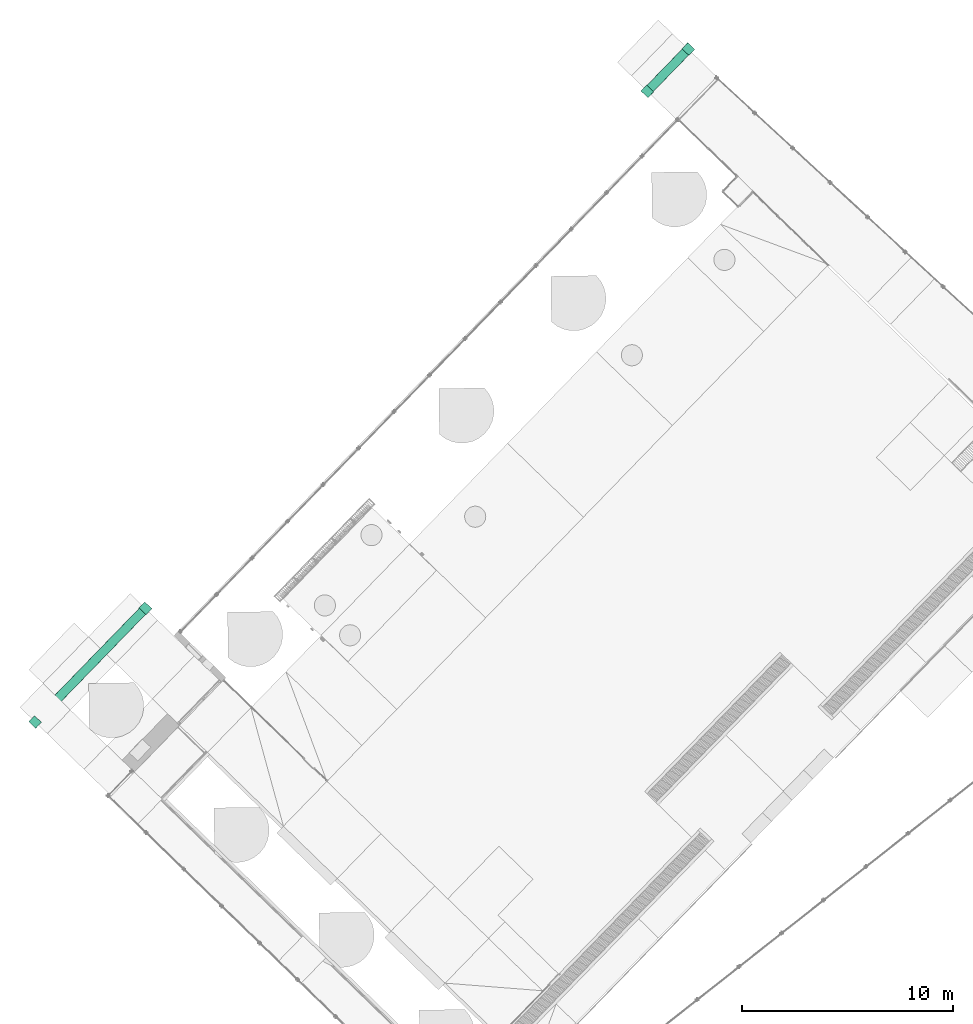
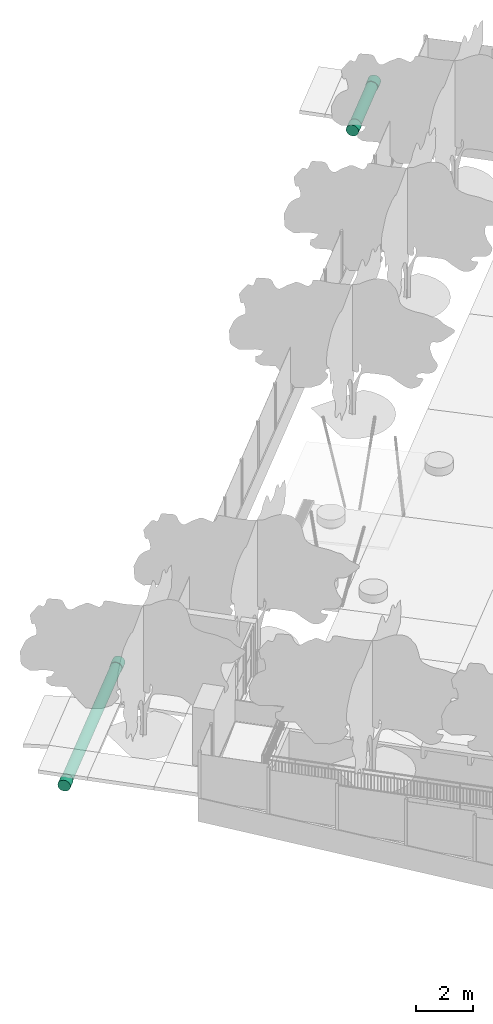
# One storey, part 31 of 37: 4 flow fittings, 2 flow segments.
"""IFC2X3 building model written with IfcOpenShell, lengths in centimetres."""

import ifcopenshell
import ifcopenshell.guid

model = None  # the IFC model being written
_history = None  # IfcOwnerHistory: only IFC2X3 demands one
_inside = {}  # id of a spatial element -> (the spatial element, [elements in it])
_under = {}  # id of a project, library or spatial element -> (it, [spatial elements below it])
_declared = {}  # id of a project -> (the project, [libraries it declares])
_typed = {}  # id of a type object -> (the type object, [elements of that type])
_made_of = {}  # id of a material, layer set ... -> (it, [elements and type objects made of it])


def new_model(schema):
    """Start an empty IFC model of exactly this schema.

    Asked for "IFC4X3", IfcOpenShell would pick the latest addendum, in which some entities
    have other attributes; the version numbers below select the first issue.
    IFC2X3 requires an IfcOwnerHistory on every rooted entity: one is made here for all.
    """
    global model, _history
    if schema == "IFC4X3":
        model = ifcopenshell.file(schema_version=(4, 3, 0, 0))
    else:
        model = ifcopenshell.file(schema=schema)
    _inside.clear()
    _under.clear()
    _declared.clear()
    _typed.clear()
    _made_of.clear()
    _history = None
    if model.schema == "IFC2X3":
        org = make("IfcOrganization", Name="unknown")
        user = make(
            "IfcPersonAndOrganization",
            ThePerson=make("IfcPerson", FamilyName="unknown"),
            TheOrganization=org,
        )
        app = make(
            "IfcApplication",
            ApplicationDeveloper=org,
            Version="unknown",
            ApplicationFullName="unknown",
            ApplicationIdentifier="unknown",
        )
        _history = make(
            "IfcOwnerHistory",
            OwningUser=user,
            OwningApplication=app,
            ChangeAction="ADDED",
            CreationDate=0,
        )
    return model


def make(cls, **values):
    """One entity of the class cls with the attributes given. An attribute that is None is left unset."""
    return model.create_entity(
        cls, **{name: value for name, value in values.items() if value is not None}
    )


def entity(cls, *values):
    """Any entity or typed value of the class cls, its attributes in the order of the schema. None: left unset."""
    e = model.create_entity(cls)
    for i, value in enumerate(values):
        if value is not None:
            e[i] = value
    return e


def rooted(cls, **values):
    """An entity with a GlobalId (a new one), such as an element, a storey or a relation."""
    return make(cls, GlobalId=ifcopenshell.guid.new(), OwnerHistory=_history, **values)


def si_unit(unit_type, name, prefix=None):
    """IfcSIUnit, for example si_unit("LENGTHUNIT", "METRE", prefix="MILLI")."""
    return make("IfcSIUnit", UnitType=unit_type, Prefix=prefix, Name=name)


def converted_unit(unit_type, name, factor, base, dimensions=None, offset=None):
    """IfcConversionBasedUnit, such as the inch: factor (a typed value) times the base unit."""
    return make(
        "IfcConversionBasedUnit"
        if offset is None
        else "IfcConversionBasedUnitWithOffset",
        ConversionOffset=offset,
        Dimensions=None
        if dimensions is None
        else entity("IfcDimensionalExponents", *dimensions),
        UnitType=unit_type,
        Name=name,
        ConversionFactor=make(
            "IfcMeasureWithUnit", ValueComponent=factor, UnitComponent=base
        ),
    )


def derived_unit(unit_type, elements):
    """IfcDerivedUnit: a product of units, each with its exponent."""
    return make(
        "IfcDerivedUnit",
        Elements=[
            make("IfcDerivedUnitElement", Unit=unit, Exponent=power)
            for unit, power in elements
        ],
        UnitType=unit_type,
    )


def assignment(units):
    """IfcUnitAssignment: the units of a project."""
    return None if units is None else make("IfcUnitAssignment", Units=units)


def point(xyz):
    """IfcCartesianPoint."""
    return None if xyz is None else make("IfcCartesianPoint", Coordinates=xyz)


def direction(xyz):
    """IfcDirection."""
    return None if xyz is None else make("IfcDirection", DirectionRatios=xyz)


def frame(location, z_axis=None, x_axis=None):
    """IfcAxis2Placement3D, a coordinate frame: its origin and axes. An axis left out is left unset."""
    return make(
        "IfcAxis2Placement3D",
        Location=point(location),
        Axis=direction(z_axis),
        RefDirection=direction(x_axis),
    )


def frame_2d(location, x_axis=None):
    """IfcAxis2Placement2D, a coordinate frame in the plane: its origin and x axis."""
    return make(
        "IfcAxis2Placement2D", Location=point(location), RefDirection=direction(x_axis)
    )


def origin():
    """The frame at (0, 0, 0) with its axes left unset."""
    return frame((0.0, 0.0, 0.0))


def place(relative_to, where):
    """IfcLocalPlacement: puts the frame where relative to a parent placement (None: the world)."""
    return make(
        "IfcLocalPlacement", PlacementRelTo=relative_to, RelativePlacement=where
    )


def context(
    kind, dimensions, precision=None, world=None, true_north=None, identifier=None
):
    """IfcGeometricRepresentationContext, for example the 3D "Model" context."""
    return make(
        "IfcGeometricRepresentationContext",
        ContextIdentifier=identifier,
        ContextType=kind,
        CoordinateSpaceDimension=dimensions,
        Precision=precision,
        WorldCoordinateSystem=world,
        TrueNorth=true_north,
    )


def subcontext(parent, identifier, kind, view, scale=None):
    """IfcGeometricRepresentationSubContext, for example "Body" below "Model"."""
    return make(
        "IfcGeometricRepresentationSubContext",
        ContextIdentifier=identifier,
        ContextType=kind,
        ParentContext=parent,
        TargetScale=scale,
        TargetView=view,
    )


def project(units=None, contexts=None):
    """IfcProject with its units and contexts."""
    return rooted(
        "IfcProject",
        Name="project",
        RepresentationContexts=contexts,
        UnitsInContext=assignment(units),
    )


def spatial(cls, under=None, at=None, **own):
    """A site, building, storey or space (cls), placed at a placement, below another one or the project."""
    s = rooted(cls, ObjectPlacement=at, **own)
    if under is not None:
        _under.setdefault(under.id(), (under, []))[1].append(s)
    return s


def profile(cls, at=None, kind="AREA", **sizes):
    """A parametric profile (cls). Its sizes go by their IFC names, for example OverallWidth=200.0."""
    return make(cls, ProfileType=kind, Position=at, **sizes)


def circle(**sizes):
    """IfcCircleProfileDef."""
    return profile("IfcCircleProfileDef", **sizes)


def extrude(swept, where, along, depth):
    """IfcExtrudedAreaSolid: the profile swept, set in the frame where, extruded along a direction by depth."""
    return make(
        "IfcExtrudedAreaSolid",
        SweptArea=swept,
        Position=where,
        ExtrudedDirection=direction(along),
        Depth=depth,
    )


def shape(context_of_items, identifier, shape_type, items):
    """IfcShapeRepresentation: the items that make up one representation, for example the "Body"."""
    return make(
        "IfcShapeRepresentation",
        ContextOfItems=context_of_items,
        RepresentationIdentifier=identifier,
        RepresentationType=shape_type,
        Items=items,
    )


def source(mapping_origin, context_of_items, identifier, shape_type, items):
    """IfcRepresentationMap: a shape defined once, which mapped items show again and again."""
    return make(
        "IfcRepresentationMap",
        MappingOrigin=mapping_origin,
        MappedRepresentation=shape(context_of_items, identifier, shape_type, items),
    )


def transform(
    local_origin,
    x_axis=None,
    y_axis=None,
    z_axis=None,
    scale=None,
    scale2=None,
    scale3=None,
    uniform=True,
):
    """IfcCartesianTransformationOperator3D, or its non-uniform kind. x_axis, y_axis, z_axis: its Axis1, 2, 3."""
    if uniform:
        return make(
            "IfcCartesianTransformationOperator3D",
            Axis1=direction(x_axis),
            Axis2=direction(y_axis),
            LocalOrigin=point(local_origin),
            Scale=scale,
            Axis3=direction(z_axis),
        )
    return make(
        "IfcCartesianTransformationOperator3DnonUniform",
        Axis1=direction(x_axis),
        Axis2=direction(y_axis),
        LocalOrigin=point(local_origin),
        Scale=scale,
        Axis3=direction(z_axis),
        Scale2=scale2,
        Scale3=scale3,
    )


def mapped(mapping_source, mapping_target):
    """IfcMappedItem: shows the shape of a source again, moved by a transform."""
    return make(
        "IfcMappedItem", MappingSource=mapping_source, MappingTarget=mapping_target
    )


def material(Name=None, Category=None):
    """IfcMaterial."""
    return make("IfcMaterial", Name=Name, Category=Category)


def made_of(thing, what):
    """Note that an element or type object is made of a material, layer set ...; save() writes the relation."""
    if what is not None:
        _made_of.setdefault(what.id(), (what, []))[1].append(thing)
    return thing


def type_object(cls, material=None, **own):
    """A type object (cls), such as IfcWallType, which elements share."""
    return made_of(rooted(cls, **own), material)


def type_shapes(of_type, sources):
    """Give a type object the sources (RepresentationMaps) that its elements show as mapped items."""
    of_type.RepresentationMaps = sources


def element(
    cls,
    number,
    at=None,
    inside=None,
    cuts=None,
    type_object=None,
    material=None,
    context=None,
    identifier="Body",
    shape_type=None,
    held_by="IfcProductDefinitionShape",
    body=None,
    shapes=None,
    **own,
):
    """One element of the class cls, such as IfcWall. Its Tag is "e" and its number.

    at: its placement. inside: the storey or other place that contains it. cuts: it is an
    opening in that element (IfcRelVoidsElement). A single representation is given by context,
    identifier, shape_type and body (its items); several are given by shapes. held_by: the class
    of the entity that holds the representations. save() writes the other relations.
    """
    e = rooted(cls, Tag="e%d" % number, ObjectPlacement=at, **own)
    if body is not None:
        shapes = [shape(context, identifier, shape_type, body)]
    if shapes is not None:
        e.Representation = make(held_by, Representations=shapes)
    if inside is not None:
        _inside.setdefault(inside.id(), (inside, []))[1].append(e)
    if cuts is not None:
        rooted(
            "IfcRelVoidsElement", RelatingBuildingElement=cuts, RelatedOpeningElement=e
        )
    if type_object is not None:
        _typed.setdefault(type_object.id(), (type_object, []))[1].append(e)
    return made_of(e, material)


def aggregate(whole, parts):
    """IfcRelAggregates: a whole, such as a stair, and the parts it consists of."""
    return rooted("IfcRelAggregates", RelatingObject=whole, RelatedObjects=parts)


def save(model, path):
    """Write the relations noted so far, then the file.

    IfcRelAggregates (storeys below a building ...), IfcRelContainedInSpatialStructure (elements
    in a storey), IfcRelDefinesByType, IfcRelAssociatesMaterial and IfcRelDeclares: one each for
    every whole, place, type object, material and project.
    """
    for whole, parts in _under.values():
        aggregate(whole, parts)
    for where, things in _inside.values():
        rooted(
            "IfcRelContainedInSpatialStructure",
            RelatedElements=things,
            RelatingStructure=where,
        )
    for kind, things in _typed.values():
        rooted("IfcRelDefinesByType", RelatedObjects=things, RelatingType=kind)
    for what, things in _made_of.values():
        rooted("IfcRelAssociatesMaterial", RelatedObjects=things, RelatingMaterial=what)
    for by, libraries in _declared.values():
        rooted("IfcRelDeclares", RelatingContext=by, RelatedDefinitions=libraries)
    model.write(path)


model = new_model("IFC2X3")

# Units and contexts
model_context = context("Model", 3, precision=0.001, world=origin(), true_north=direction((0.717475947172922, 0.696583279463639)))
body_context = subcontext(model_context, "Body", "Model", "MODEL_VIEW")
ifc_project = project(units=[si_unit("LENGTHUNIT", "METRE", prefix="CENTI"), si_unit("AREAUNIT", "SQUARE_METRE"), si_unit("VOLUMEUNIT", "CUBIC_METRE"), converted_unit("PLANEANGLEUNIT", "DEGREE", entity("IfcRatioMeasure", 0.0174532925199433), si_unit("PLANEANGLEUNIT", "RADIAN"), dimensions=[0, 0, 0, 0, 0, 0, 0]), si_unit("MASSUNIT", "GRAM", prefix="KILO"), derived_unit("MASSDENSITYUNIT", [(si_unit("MASSUNIT", "GRAM", prefix="KILO"), 1), (si_unit("LENGTHUNIT", "METRE"), -3)]), si_unit("TIMEUNIT", "SECOND"), si_unit("FREQUENCYUNIT", "HERTZ"), si_unit("THERMODYNAMICTEMPERATUREUNIT", "DEGREE_CELSIUS"), derived_unit("THERMALTRANSMITTANCEUNIT", [(si_unit("MASSUNIT", "GRAM", prefix="KILO"), 1), (si_unit("THERMODYNAMICTEMPERATUREUNIT", "KELVIN"), -1), (si_unit("TIMEUNIT", "SECOND"), -3)]), derived_unit("VOLUMETRICFLOWRATEUNIT", [(si_unit("LENGTHUNIT", "METRE"), 3), (si_unit("TIMEUNIT", "SECOND"), -1)]), si_unit("ELECTRICCURRENTUNIT", "AMPERE"), si_unit("ELECTRICVOLTAGEUNIT", "VOLT"), si_unit("POWERUNIT", "WATT"), si_unit("FORCEUNIT", "NEWTON", prefix="KILO"), si_unit("ILLUMINANCEUNIT", "LUX"), si_unit("LUMINOUSFLUXUNIT", "LUMEN"), si_unit("LUMINOUSINTENSITYUNIT", "CANDELA"), derived_unit("USERDEFINED", [(si_unit("MASSUNIT", "GRAM", prefix="KILO"), -1), (si_unit("LENGTHUNIT", "METRE"), -2), (si_unit("TIMEUNIT", "SECOND"), 3), (si_unit("LUMINOUSFLUXUNIT", "LUMEN"), 1)]), derived_unit("LINEARVELOCITYUNIT", [(si_unit("LENGTHUNIT", "METRE"), 1), (si_unit("TIMEUNIT", "SECOND"), -1)]), si_unit("PRESSUREUNIT", "PASCAL"), derived_unit("USERDEFINED", [(si_unit("LENGTHUNIT", "METRE"), -2), (si_unit("MASSUNIT", "GRAM", prefix="KILO"), 1), (si_unit("TIMEUNIT", "SECOND"), -2)])], contexts=[model_context])

# Site, building, storey
site_placement = place(None, frame((0.0, 0.0, 0.0), z_axis=(0.0, 0.0, 1.0), x_axis=(0.696583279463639, 0.717475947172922, 0.0)))
site = spatial("IfcSite", under=ifc_project, at=site_placement, Name="Surface", CompositionType="ELEMENT")
building_placement = place(site_placement, origin())
building = spatial("IfcBuilding", under=site, at=building_placement, CompositionType="ELEMENT")
storey_placement = place(building_placement, origin())
storey = spatial("IfcBuildingStorey", under=building, at=storey_placement, Name="Nivel 0.00", CompositionType="ELEMENT", Elevation=0.0)

# Flow segments
pipe_segment_type = type_object("IfcPipeSegmentType", Name="Pipe Types:TUBERIA_PVC", PredefinedType="NOTDEFINED")
flow_segment_1_placement = place(storey_placement, origin())
element("IfcFlowSegment", 1, at=flow_segment_1_placement, inside=storey, type_object=pipe_segment_type, Name="Pipe Types:TUBERIA_PVC", ObjectType="Pipe Types:TUBERIA_PVC", context=body_context, shape_type="SweptSolid", body=[
    extrude(circle(Radius=21.1925, at=frame_2d((-2.16573425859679e-13, -1.00165209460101e-12), x_axis=(1.0, 0.0))), frame((1810.01474732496, 1264.80592075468, 110.463264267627), z_axis=(1.0, 0.0, 0.0), x_axis=(0.0, 1.0, 0.0)), (0.0, 0.0, 1.0), 239.82109542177),
])
flow_segment_2_placement = place(storey_placement, origin())
element("IfcFlowSegment", 2, at=flow_segment_2_placement, inside=storey, type_object=pipe_segment_type, Name="Pipe Types:TUBERIA_PVC", ObjectType="Pipe Types:TUBERIA_PVC", context=body_context, shape_type="SweptSolid", body=[
    extrude(circle(Radius=21.1925, at=frame_2d((0.0, -2.70716782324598e-14), x_axis=(1.0, 0.0))), frame((-2351.36965218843, 1264.80592075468, 112.985322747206), z_axis=(1.0, 0.0, 0.0), x_axis=(0.0, 1.0, 0.0)), (0.0, 0.0, 1.0), 710.674172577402),
])

# Flow fittings
ifc_material = material(Name="PVC-Piping")
pipe_fitting_type = type_object("IfcPipeFittingType", Name="Standard", PredefinedType="NOTDEFINED", material=ifc_material)
shared_shape = source(origin(), body_context, "Body", "SweptSolid", [
    extrude(circle(Radius=23.1605859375, at=frame_2d((0.0, -3.74169589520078e-14), x_axis=(1.0, 0.0))), frame((-19.7310937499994, 0.0, 0.0), z_axis=(1.0, 0.0, 0.0), x_axis=(0.0, 1.0, 0.0)), (0.0, 0.0, 1.0), 39.4621875),
])
type_shapes(pipe_fitting_type, [shared_shape])
flow_fitting_placement = place(storey_placement, frame((-2371.10074593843, 1264.80592075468, 112.985322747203), z_axis=(0.0, 0.0, 1.0), x_axis=(-1.0, 0.0, 0.0)))
element("IfcFlowFitting", 3, at=flow_fitting_placement, inside=storey, type_object=pipe_fitting_type, material=ifc_material, Name="M_Coupling - PVC - Sch 40:Standard", ObjectType="Standard", context=body_context, shape_type="MappedRepresentation", body=[
    mapped(shared_shape, transform((0.0, 0.0, 0.0), scale=1.0)),
])
for number, where, name in (
    (4, (-1620.96438586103, 1264.80592075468, 112.985322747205), "M_Coupling - PVC - Sch 40:Standard"),
    (5, (1790.28365357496, 1264.80592075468, 110.463264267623), "M_Coupling - PVC - Sch 40:Standard"),
    (6, (2069.56693649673, 1264.80592075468, 110.463264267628), "M_Coupling - PVC - Sch 40:Standard"),
):
    element("IfcFlowFitting", number, at=place(storey_placement, frame(where)), inside=storey, type_object=pipe_fitting_type, material=ifc_material, Name=name, ObjectType="Standard", context=body_context, shape_type="MappedRepresentation", body=[
        mapped(shared_shape, transform((0.0, 0.0, 0.0), scale=1.0)),
    ])

save(model, "model.ifc")
